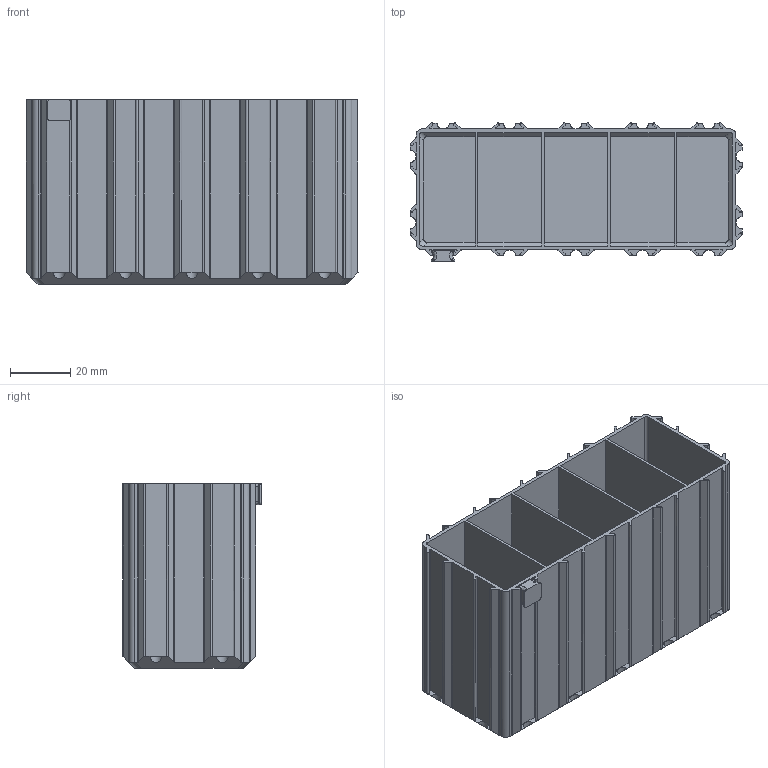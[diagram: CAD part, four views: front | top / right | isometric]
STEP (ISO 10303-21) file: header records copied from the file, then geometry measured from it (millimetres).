
FILE_DESCRIPTION(/* description */ (''),/* implementation_level */ '2;1');
FILE_NAME(/* name */ 'BOX_x05_y02_z060_txn_ty0.stp',/* time_stamp */ '2024-02-16T08:36:06+01:00',/* author */ ('ott'),/* organization */ (''),/* preprocessor_version */ 'ST-DEVELOPER v19.2',/* originating_system */ 'Autodesk Inventor 2023',/* authorisation */ '');
FILE_SCHEMA (('AUTOMOTIVE_DESIGN { 1 0 10303 214 3 1 1 }'));
Length unit declared in the file: millimetre
Products named in the file (1): BOX_x05_y02_z060_txn_ty0
Bounding box: 110 x 45.8 x 61.2 mm (x, y, z)
Volume: 36246.2 mm3; surface area: 67256.7 mm2
Topology: 2 solids, 2 shells, 291 faces, 818 edges, 536 vertices
Faces by surface type: plane 171, cylinder 116, torus 4
Entity records: 9840 total; most frequent: CARTESIAN_POINT 1738, DIRECTION 1668, ORIENTED_EDGE 1636, EDGE_CURVE 818, AXIS2_PLACEMENT_3D 566, LINE 536, VECTOR 536, VERTEX_POINT 536
